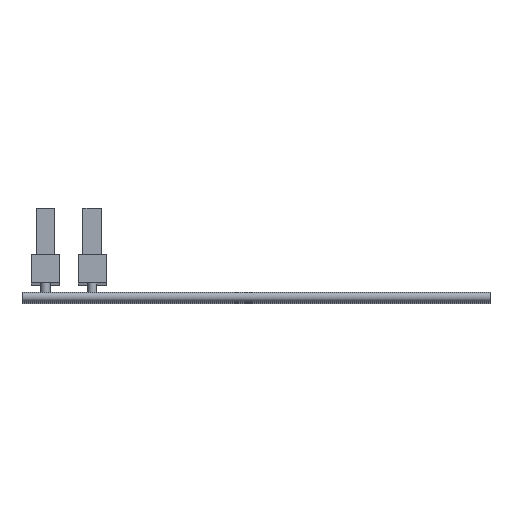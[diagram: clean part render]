
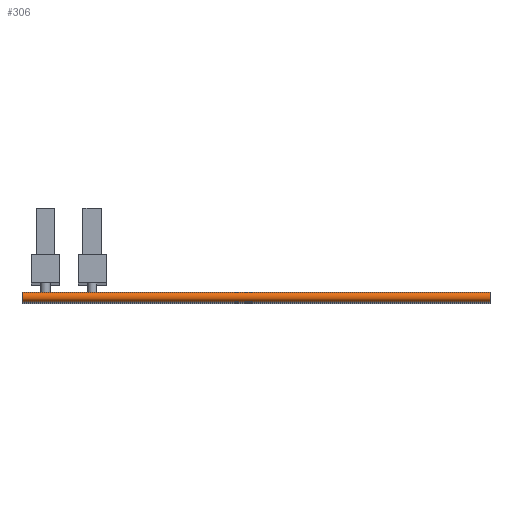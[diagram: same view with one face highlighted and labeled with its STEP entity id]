
A CAD part, top view. The second image highlights one B-rep face of the part: STEP entity #306.
In plain terms, the highlighted cylindrical face has radius 5 mm (diameter 10 mm), a partial arc.
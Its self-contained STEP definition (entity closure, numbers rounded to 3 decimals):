
#306 = ADVANCED_FACE( '', ( #721 ), #722, .T. );
#721 = FACE_OUTER_BOUND( '', #1278, .T. );
#722 = CYLINDRICAL_SURFACE( '', #1279, 5. );
#1278 = EDGE_LOOP( '', ( #2121, #2122, #2123, #2124 ) );
#1279 = AXIS2_PLACEMENT_3D( '', #2125, #2126, #2127 );
#2121 = ORIENTED_EDGE( '', *, *, #2907, .F. );
#2122 = ORIENTED_EDGE( '', *, *, #3046, .F. );
#2123 = ORIENTED_EDGE( '', *, *, #3102, .F. );
#2124 = ORIENTED_EDGE( '', *, *, #2899, .F. );
#2125 = CARTESIAN_POINT( '', ( -250., 0., 20. ) );
#2126 = DIRECTION( '', ( -1., 0., 0. ) );
#2127 = DIRECTION( '', ( 0., 0., -1. ) );
#2899 = EDGE_CURVE( '', #3411, #3406, #3413, .T. );
#2907 = EDGE_CURVE( '', #3425, #3411, #3427, .F. );
#3046 = EDGE_CURVE( '', #3646, #3425, #3649, .F. );
#3102 = EDGE_CURVE( '', #3406, #3646, #3731, .F. );
#3406 = VERTEX_POINT( '', #4127 );
#3411 = VERTEX_POINT( '', #4134 );
#3413 = LINE( '', #4137, #4138 );
#3425 = VERTEX_POINT( '', #4152 );
#3427 = CIRCLE( '', #4155, 5. );
#3646 = VERTEX_POINT( '', #4437 );
#3649 = LINE( '', #4441, #4442 );
#3731 = CIRCLE( '', #4547, 5. );
#4127 = CARTESIAN_POINT( '', ( -250., -5., 20. ) );
#4134 = CARTESIAN_POINT( '', ( 250., -5., 20. ) );
#4137 = CARTESIAN_POINT( '', ( -250., -5., 20. ) );
#4138 = VECTOR( '', #4962, 1000. );
#4152 = CARTESIAN_POINT( '', ( 250., 5., 20. ) );
#4155 = AXIS2_PLACEMENT_3D( '', #4972, #4973, #4974 );
#4437 = CARTESIAN_POINT( '', ( -250., 5., 20. ) );
#4441 = CARTESIAN_POINT( '', ( -250., 5., 20. ) );
#4442 = VECTOR( '', #5159, 1000. );
#4547 = AXIS2_PLACEMENT_3D( '', #5228, #5229, #5230 );
#4962 = DIRECTION( '', ( -1., 0., 0. ) );
#4972 = CARTESIAN_POINT( '', ( 250., 0., 20. ) );
#4973 = DIRECTION( '', ( -1., 0., 0. ) );
#4974 = DIRECTION( '', ( 0., 0., 1. ) );
#5159 = DIRECTION( '', ( -1., 0., 0. ) );
#5228 = CARTESIAN_POINT( '', ( -250., 0., 20. ) );
#5229 = DIRECTION( '', ( 1., 0., 0. ) );
#5230 = DIRECTION( '', ( 0., 0., -1. ) );
